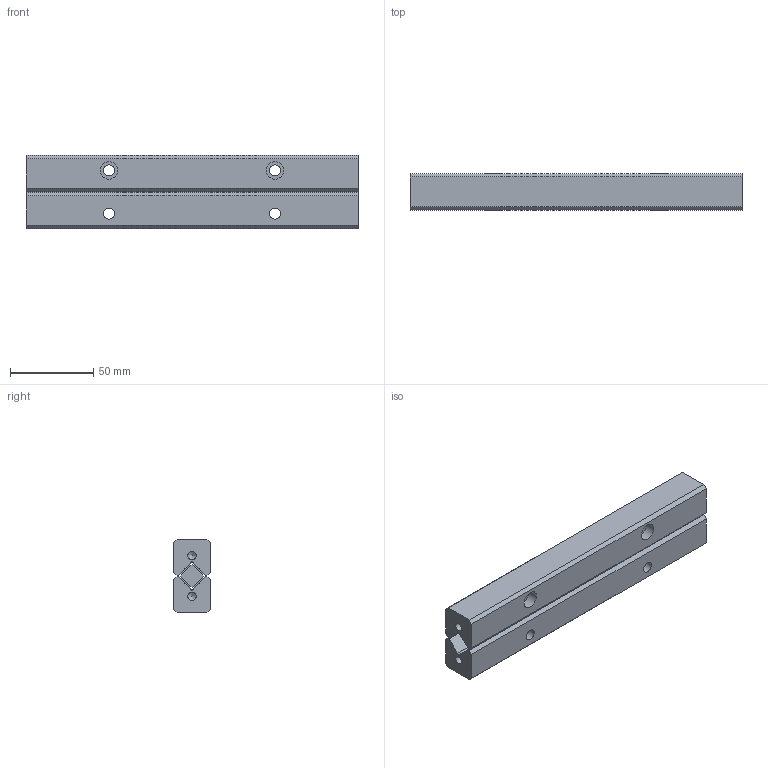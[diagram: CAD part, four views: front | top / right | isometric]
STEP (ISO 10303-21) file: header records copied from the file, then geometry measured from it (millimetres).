
FILE_DESCRIPTION((''),'2;1');
FILE_NAME('D:\製品 (図面)\カタログ用3D\リニアガイド関連\STEP形式\ACS9\ACS9200.stp','2010-07-29T15:45:42',('Tsuchiya'),(''),'Autodesk Inventor 10','Autodesk Inventor 10','');
FILE_SCHEMA(('AUTOMOTIVE_DESIGN { 1 0 10303 214 1 1 1 1 }'));
Length unit declared in the file: millimetre
Products named in the file (4): ACS9200; ACS92001; ACS92002; ACS92003
Assembly tree (3 placements, depth 2):
  ACS9200
    ACS92001
    ACS92002
    ACS92003
Bounding box: 200 x 22 x 44 mm (x, y, z)
Volume: 175403.9 mm3; surface area: 47396.1 mm2
Topology: 3 solids, 3 shells, 74 faces, 178 edges, 118 vertices
Faces by surface type: plane 52, bspline 16, cylinder 4, cone 2
Full cylindrical faces by diameter (mm): 4.917 x2
Entity records: 2275 total; most frequent: CARTESIAN_POINT 565, DIRECTION 314, ORIENTED_EDGE 312, EDGE_CURVE 156, VECTOR 128, LINE 128, VERTEX_POINT 112, EDGE_LOOP 106
